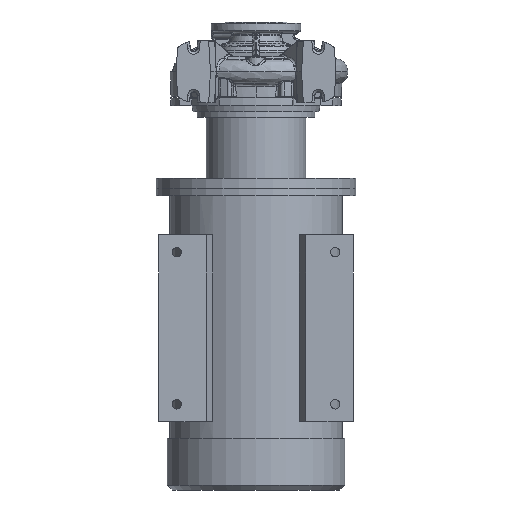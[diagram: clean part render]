
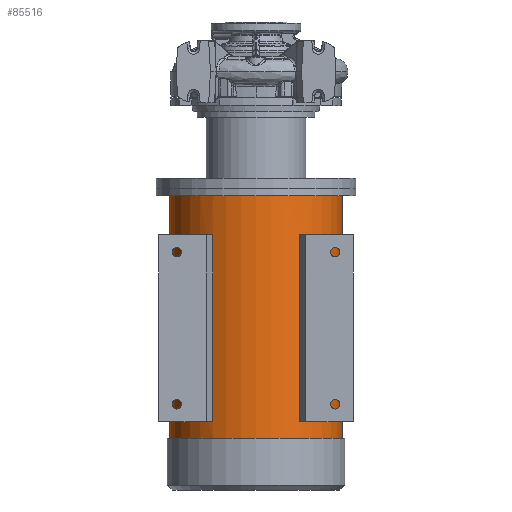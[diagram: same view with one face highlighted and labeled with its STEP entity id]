
A CAD part, front view. The second image highlights one B-rep face of the part: STEP entity #85516.
In plain terms, the highlighted cylindrical face has radius 173.5 mm (diameter 347 mm), a partial arc.
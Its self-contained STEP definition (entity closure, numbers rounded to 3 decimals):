
#234 = VERTEX_POINT ( 'NONE', #81828 ) ;
#1635 = LINE ( 'NONE', #40091, #4966 ) ;
#2633 = ORIENTED_EDGE ( 'NONE', *, *, #55737, .T. ) ;
#2665 = CARTESIAN_POINT ( 'NONE',  ( 100.73, -141.265, -702. ) ) ;
#4395 = CARTESIAN_POINT ( 'NONE',  ( 87.271, -149.953, -839. ) ) ;
#4447 = DIRECTION ( 'NONE',  ( -1., 0., 0. ) ) ;
#4966 = VECTOR ( 'NONE', #12716, 1000. ) ;
#5105 = LINE ( 'NONE', #45736, #38124 ) ;
#5443 = VECTOR ( 'NONE', #55166, 1000. ) ;
#5752 = LINE ( 'NONE', #4395, #87130 ) ;
#6567 = VERTEX_POINT ( 'NONE', #2665 ) ;
#8032 = ORIENTED_EDGE ( 'NONE', *, *, #66187, .F. ) ;
#12446 = CARTESIAN_POINT ( 'NONE',  ( 0., 0., -702. ) ) ;
#12716 = DIRECTION ( 'NONE',  ( 0., 0., -1. ) ) ;
#12986 = ORIENTED_EDGE ( 'NONE', *, *, #70330, .F. ) ;
#13609 = CARTESIAN_POINT ( 'NONE',  ( 173.5, 0., -735. ) ) ;
#13692 = ORIENTED_EDGE ( 'NONE', *, *, #36496, .F. ) ;
#14105 = CIRCLE ( 'NONE', #62900, 173.5 ) ;
#14365 = VERTEX_POINT ( 'NONE', #20785 ) ;
#15416 = CYLINDRICAL_SURFACE ( 'NONE', #28465, 173.5 ) ;
#15765 = CARTESIAN_POINT ( 'NONE',  ( 87.271, -149.953, -702. ) ) ;
#17077 = DIRECTION ( 'NONE',  ( 0., 0., 1. ) ) ;
#19762 = VERTEX_POINT ( 'NONE', #62144 ) ;
#20785 = CARTESIAN_POINT ( 'NONE',  ( -87.271, -149.953, -702. ) ) ;
#21016 = AXIS2_PLACEMENT_3D ( 'NONE', #49470, #57097, #42978 ) ;
#21286 = ORIENTED_EDGE ( 'NONE', *, *, #31908, .F. ) ;
#21510 = AXIS2_PLACEMENT_3D ( 'NONE', #85280, #91122, #49090 ) ;
#22159 = DIRECTION ( 'NONE',  ( 0., 0., -1. ) ) ;
#24174 = LINE ( 'NONE', #61326, #5443 ) ;
#24493 = CARTESIAN_POINT ( 'NONE',  ( 0., 0., -327. ) ) ;
#25581 = DIRECTION ( 'NONE',  ( 0., 0., 1. ) ) ;
#26482 = CARTESIAN_POINT ( 'NONE',  ( -87.271, -149.953, -839. ) ) ;
#27419 = VERTEX_POINT ( 'NONE', #15765 ) ;
#27503 = DIRECTION ( 'NONE',  ( 0., 0., -1. ) ) ;
#28302 = VECTOR ( 'NONE', #35304, 1000. ) ;
#28465 = AXIS2_PLACEMENT_3D ( 'NONE', #63103, #27503, #56032 ) ;
#28675 = DIRECTION ( 'NONE',  ( 1., 0., 0. ) ) ;
#29498 = EDGE_CURVE ( 'NONE', #91118, #6567, #5105, .T. ) ;
#29635 = EDGE_CURVE ( 'NONE', #19762, #76986, #55786, .T. ) ;
#30461 = CIRCLE ( 'NONE', #42770, 173.5 ) ;
#31387 = EDGE_LOOP ( 'NONE', ( #87094, #38828, #2633, #71376 ) ) ;
#31527 = DIRECTION ( 'NONE',  ( 0., 0., 1. ) ) ;
#31576 = DIRECTION ( 'NONE',  ( -1., 0., 0. ) ) ;
#31908 = EDGE_CURVE ( 'NONE', #14365, #62832, #80236, .T. ) ;
#35038 = CIRCLE ( 'NONE', #37931, 173.5 ) ;
#35272 = FACE_BOUND ( 'NONE', #68086, .T. ) ;
#35304 = DIRECTION ( 'NONE',  ( 0., 0., -1. ) ) ;
#35921 = CARTESIAN_POINT ( 'NONE',  ( 173.5, 0., -839. ) ) ;
#36496 = EDGE_CURVE ( 'NONE', #27419, #6567, #75299, .T. ) ;
#37931 = AXIS2_PLACEMENT_3D ( 'NONE', #54810, #69537, #55436 ) ;
#38124 = VECTOR ( 'NONE', #76482, 1000. ) ;
#38237 = EDGE_CURVE ( 'NONE', #58052, #91118, #30461, .T. ) ;
#38319 = CARTESIAN_POINT ( 'NONE',  ( -100.73, -141.265, -327. ) ) ;
#38828 = ORIENTED_EDGE ( 'NONE', *, *, #64788, .T. ) ;
#39490 = VERTEX_POINT ( 'NONE', #38319 ) ;
#40091 = CARTESIAN_POINT ( 'NONE',  ( -173.5, 0., -839. ) ) ;
#41938 = CARTESIAN_POINT ( 'NONE',  ( -100.73, -141.265, -702. ) ) ;
#42770 = AXIS2_PLACEMENT_3D ( 'NONE', #24493, #17077, #31576 ) ;
#42978 = DIRECTION ( 'NONE',  ( 1., 0., 0. ) ) ;
#43922 = CARTESIAN_POINT ( 'NONE',  ( -173.5, 0., -249. ) ) ;
#45442 = EDGE_LOOP ( 'NONE', ( #21286, #55994, #12986, #8032 ) ) ;
#45736 = CARTESIAN_POINT ( 'NONE',  ( 100.73, -141.265, -839. ) ) ;
#46575 = DIRECTION ( 'NONE',  ( 0., 0., 1. ) ) ;
#49090 = DIRECTION ( 'NONE',  ( -1., 0., 0. ) ) ;
#49470 = CARTESIAN_POINT ( 'NONE',  ( 0., 0., -327. ) ) ;
#52809 = CARTESIAN_POINT ( 'NONE',  ( -87.271, -149.953, -327. ) ) ;
#54810 = CARTESIAN_POINT ( 'NONE',  ( 0., 0., -735. ) ) ;
#55166 = DIRECTION ( 'NONE',  ( 0., 0., -1. ) ) ;
#55436 = DIRECTION ( 'NONE',  ( -1., 0., 0. ) ) ;
#55737 = EDGE_CURVE ( 'NONE', #74567, #234, #1635, .T. ) ;
#55786 = LINE ( 'NONE', #35921, #28302 ) ;
#55994 = ORIENTED_EDGE ( 'NONE', *, *, #73244, .T. ) ;
#56032 = DIRECTION ( 'NONE',  ( -1., 0., 0. ) ) ;
#57097 = DIRECTION ( 'NONE',  ( 0., 0., -1. ) ) ;
#58052 = VERTEX_POINT ( 'NONE', #74317 ) ;
#60795 = CIRCLE ( 'NONE', #21016, 173.5 ) ;
#61326 = CARTESIAN_POINT ( 'NONE',  ( -100.73, -141.265, -839. ) ) ;
#62144 = CARTESIAN_POINT ( 'NONE',  ( 173.5, 0., -249. ) ) ;
#62832 = VERTEX_POINT ( 'NONE', #52809 ) ;
#62900 = AXIS2_PLACEMENT_3D ( 'NONE', #84525, #22159, #28675 ) ;
#63103 = CARTESIAN_POINT ( 'NONE',  ( 0., 0., -839. ) ) ;
#63230 = AXIS2_PLACEMENT_3D ( 'NONE', #12446, #46575, #4447 ) ;
#63351 = EDGE_CURVE ( 'NONE', #76986, #234, #35038, .T. ) ;
#63356 = ORIENTED_EDGE ( 'NONE', *, *, #86894, .T. ) ;
#64788 = EDGE_CURVE ( 'NONE', #19762, #74567, #84204, .T. ) ;
#65974 = FACE_BOUND ( 'NONE', #45442, .T. ) ;
#66187 = EDGE_CURVE ( 'NONE', #62832, #39490, #60795, .T. ) ;
#68086 = EDGE_LOOP ( 'NONE', ( #13692, #63356, #70035, #77871 ) ) ;
#69537 = DIRECTION ( 'NONE',  ( 0., 0., -1. ) ) ;
#70035 = ORIENTED_EDGE ( 'NONE', *, *, #38237, .T. ) ;
#70330 = EDGE_CURVE ( 'NONE', #39490, #88358, #24174, .T. ) ;
#70432 = FACE_OUTER_BOUND ( 'NONE', #31387, .T. ) ;
#71376 = ORIENTED_EDGE ( 'NONE', *, *, #63351, .F. ) ;
#73244 = EDGE_CURVE ( 'NONE', #14365, #88358, #14105, .T. ) ;
#74317 = CARTESIAN_POINT ( 'NONE',  ( 87.271, -149.953, -327. ) ) ;
#74567 = VERTEX_POINT ( 'NONE', #43922 ) ;
#75299 = CIRCLE ( 'NONE', #63230, 173.5 ) ;
#76482 = DIRECTION ( 'NONE',  ( 0., 0., -1. ) ) ;
#76986 = VERTEX_POINT ( 'NONE', #13609 ) ;
#77871 = ORIENTED_EDGE ( 'NONE', *, *, #29498, .T. ) ;
#78657 = CARTESIAN_POINT ( 'NONE',  ( 100.73, -141.265, -327. ) ) ;
#80236 = LINE ( 'NONE', #26482, #87922 ) ;
#81828 = CARTESIAN_POINT ( 'NONE',  ( -173.5, 0., -735. ) ) ;
#84204 = CIRCLE ( 'NONE', #21510, 173.5 ) ;
#84525 = CARTESIAN_POINT ( 'NONE',  ( 0., 0., -702. ) ) ;
#85280 = CARTESIAN_POINT ( 'NONE',  ( 0., 0., -249. ) ) ;
#85516 = ADVANCED_FACE ( 'NONE', ( #70432, #35272, #65974 ), #15416, .T. ) ;
#86894 = EDGE_CURVE ( 'NONE', #27419, #58052, #5752, .T. ) ;
#87094 = ORIENTED_EDGE ( 'NONE', *, *, #29635, .F. ) ;
#87130 = VECTOR ( 'NONE', #31527, 1000. ) ;
#87922 = VECTOR ( 'NONE', #25581, 1000. ) ;
#88358 = VERTEX_POINT ( 'NONE', #41938 ) ;
#91118 = VERTEX_POINT ( 'NONE', #78657 ) ;
#91122 = DIRECTION ( 'NONE',  ( 0., 0., -1. ) ) ;
